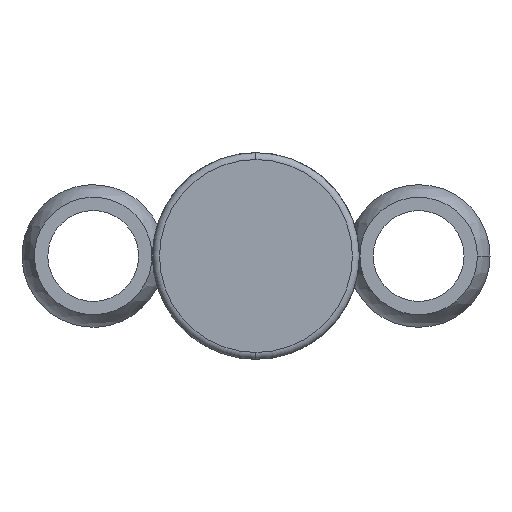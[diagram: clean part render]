
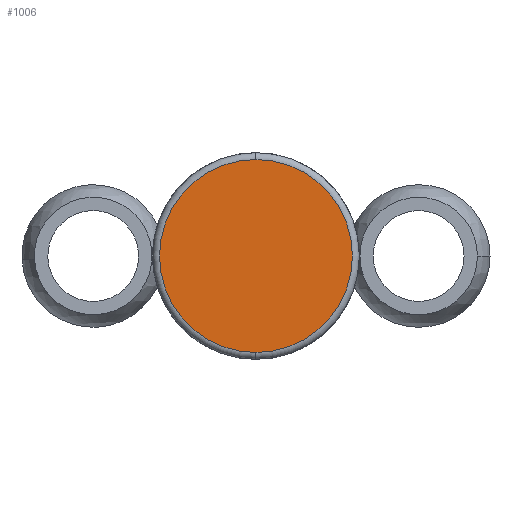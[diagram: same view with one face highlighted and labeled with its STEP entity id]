
A CAD part, front view. The second image highlights one B-rep face of the part: STEP entity #1006.
In plain terms, the highlighted planar face has unit normal (0, -1, 0).
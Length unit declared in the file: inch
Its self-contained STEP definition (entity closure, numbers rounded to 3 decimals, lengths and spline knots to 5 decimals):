
#12 = DIRECTION ( 'NONE',  ( 0., 0., 1. ) ) ;
#147 = PLANE ( 'NONE',  #298 ) ;
#150 = DIRECTION ( 'NONE',  ( 0., -1., 0. ) ) ;
#205 = ORIENTED_EDGE ( 'NONE', *, *, #1425, .T. ) ;
#263 = DIRECTION ( 'NONE',  ( 0., 0., 1. ) ) ;
#298 = AXIS2_PLACEMENT_3D ( 'NONE', #374, #390, #12 ) ;
#299 = EDGE_LOOP ( 'NONE', ( #1356, #205 ) ) ;
#374 = CARTESIAN_POINT ( 'NONE',  ( 0., -1.575, 0. ) ) ;
#390 = DIRECTION ( 'NONE',  ( 0., 1., 0. ) ) ;
#404 = AXIS2_PLACEMENT_3D ( 'NONE', #1507, #150, #263 ) ;
#575 = VERTEX_POINT ( 'NONE', #1171 ) ;
#592 = DIRECTION ( 'NONE',  ( 0., -1., 0. ) ) ;
#642 = AXIS2_PLACEMENT_3D ( 'NONE', #1346, #592, #1369 ) ;
#815 = CIRCLE ( 'NONE', #404, 0.42276 ) ;
#966 = EDGE_CURVE ( 'NONE', #999, #575, #1402, .T. ) ;
#999 = VERTEX_POINT ( 'NONE', #1478 ) ;
#1006 = ADVANCED_FACE ( 'NONE', ( #1046 ), #147, .F. ) ;
#1046 = FACE_OUTER_BOUND ( 'NONE', #299, .T. ) ;
#1171 = CARTESIAN_POINT ( 'NONE',  ( 0., -1.575, -0.42276 ) ) ;
#1346 = CARTESIAN_POINT ( 'NONE',  ( 0., -1.575, 0. ) ) ;
#1356 = ORIENTED_EDGE ( 'NONE', *, *, #966, .T. ) ;
#1369 = DIRECTION ( 'NONE',  ( 0., 0., 1. ) ) ;
#1402 = CIRCLE ( 'NONE', #642, 0.42276 ) ;
#1425 = EDGE_CURVE ( 'NONE', #575, #999, #815, .T. ) ;
#1478 = CARTESIAN_POINT ( 'NONE',  ( 0., -1.575, 0.42276 ) ) ;
#1507 = CARTESIAN_POINT ( 'NONE',  ( 0., -1.575, 0. ) ) ;
